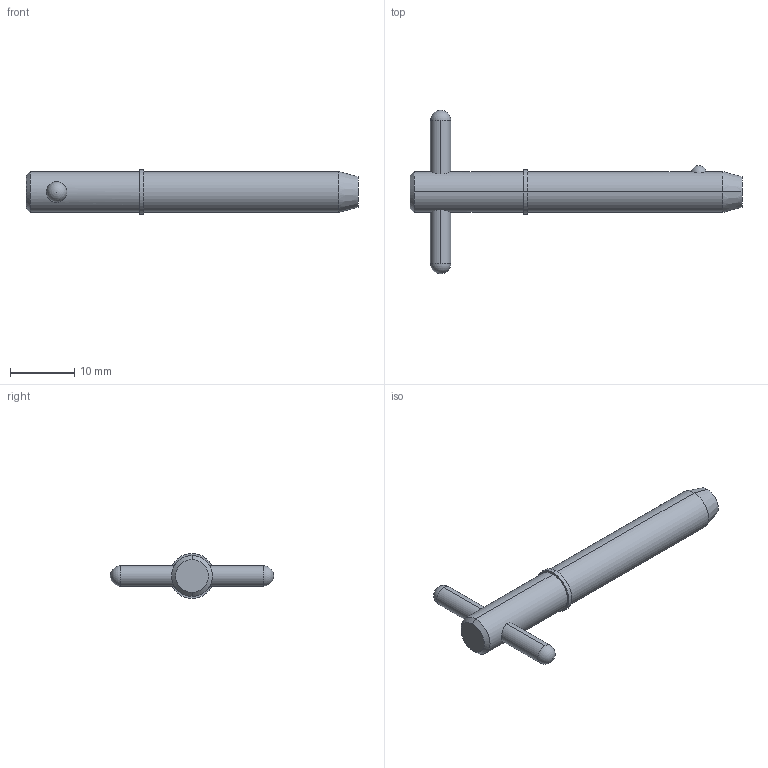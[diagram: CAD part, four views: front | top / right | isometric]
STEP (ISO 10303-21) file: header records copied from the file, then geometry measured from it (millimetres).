
FILE_DESCRIPTION (( 'STEP AP203' ), '1' );
FILE_NAME ('33018.W2510.step', '2024-11-19T17:08:04', ( '' ), ( '' ), 'SwSTEP 2.0', 'SolidWorks 2019', '' );
FILE_SCHEMA (( 'CONFIG_CONTROL_DESIGN' ));
Length unit declared in the file: millimetre
Products named in the file (3): 33018.W2510; Part1_33018.W2510; Part2_33018.W2510
Assembly tree (2 placements, depth 2):
  33018.W2510
    Part1_33018.W2510
    Part2_33018.W2510
Bounding box: 51.61 x 25.4 x 6.99 mm (x, y, z)
Volume: 1759.7 mm3; surface area: 1379.1 mm2
Topology: 2 solids, 2 shells, 22 faces, 47 edges, 30 vertices
Faces by surface type: cylinder 10, sphere 4, cone 4, plane 4
Entity records: 993 total; most frequent: CARTESIAN_POINT 236, DIRECTION 110, ORIENTED_EDGE 82, AXIS2_PLACEMENT_3D 48, EDGE_CURVE 41, EDGE_LOOP 27, VERTEX_POINT 26, PERSON_AND_ORGANIZATION 26
